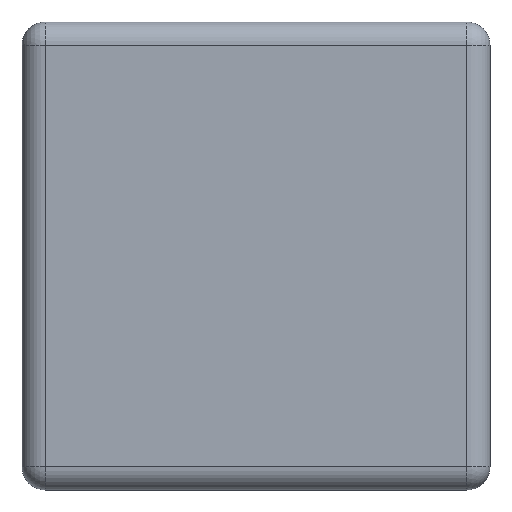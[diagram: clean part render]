
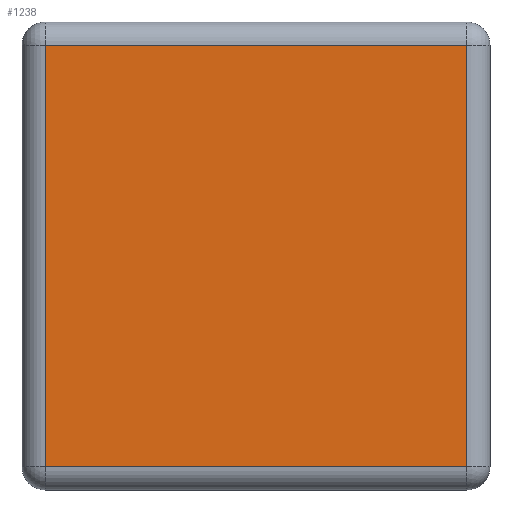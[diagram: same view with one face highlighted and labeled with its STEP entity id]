
A CAD part, front view. The second image highlights one B-rep face of the part: STEP entity #1238.
In plain terms, the highlighted planar face has unit normal (0, -1, 0).
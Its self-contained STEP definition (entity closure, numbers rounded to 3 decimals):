
#52 = EDGE_CURVE ( 'NONE', #1407, #2395, #713, .T. ) ;
#221 = ORIENTED_EDGE ( 'NONE', *, *, #1131, .T. ) ;
#389 = VECTOR ( 'NONE', #715, 1000. ) ;
#648 = VERTEX_POINT ( 'NONE', #2723 ) ;
#649 = VECTOR ( 'NONE', #1553, 1000. ) ;
#713 = LINE ( 'NONE', #1970, #649 ) ;
#715 = DIRECTION ( 'NONE',  ( 1., 0., 0. ) ) ;
#744 = EDGE_LOOP ( 'NONE', ( #3162, #932, #221, #1429 ) ) ;
#766 = AXIS2_PLACEMENT_3D ( 'NONE', #1159, #4047, #3742 ) ;
#932 = ORIENTED_EDGE ( 'NONE', *, *, #3946, .T. ) ;
#1016 = LINE ( 'NONE', #1972, #389 ) ;
#1131 = EDGE_CURVE ( 'NONE', #3427, #648, #2555, .T. ) ;
#1159 = CARTESIAN_POINT ( 'NONE',  ( 2., 0., -2. ) ) ;
#1238 = ADVANCED_FACE ( 'NONE', ( #3702 ), #3958, .T. ) ;
#1407 = VERTEX_POINT ( 'NONE', #1716 ) ;
#1429 = ORIENTED_EDGE ( 'NONE', *, *, #1628, .T. ) ;
#1553 = DIRECTION ( 'NONE',  ( 0., 0., 1. ) ) ;
#1628 = EDGE_CURVE ( 'NONE', #648, #1407, #1016, .T. ) ;
#1716 = CARTESIAN_POINT ( 'NONE',  ( 38., 0., -38. ) ) ;
#1919 = CARTESIAN_POINT ( 'NONE',  ( 2., 0., -2. ) ) ;
#1927 = CARTESIAN_POINT ( 'NONE',  ( 2., 0., -2. ) ) ;
#1970 = CARTESIAN_POINT ( 'NONE',  ( 38., 0., -2. ) ) ;
#1972 = CARTESIAN_POINT ( 'NONE',  ( 38., 0., -38. ) ) ;
#2280 = VECTOR ( 'NONE', #3688, 1000. ) ;
#2395 = VERTEX_POINT ( 'NONE', #3995 ) ;
#2463 = CARTESIAN_POINT ( 'NONE',  ( 2., 0., -38. ) ) ;
#2555 = LINE ( 'NONE', #2463, #3964 ) ;
#2723 = CARTESIAN_POINT ( 'NONE',  ( 2., 0., -38. ) ) ;
#2851 = LINE ( 'NONE', #1927, #2280 ) ;
#3162 = ORIENTED_EDGE ( 'NONE', *, *, #52, .T. ) ;
#3427 = VERTEX_POINT ( 'NONE', #1919 ) ;
#3472 = DIRECTION ( 'NONE',  ( 0., 0., -1. ) ) ;
#3688 = DIRECTION ( 'NONE',  ( -1., 0., 0. ) ) ;
#3702 = FACE_OUTER_BOUND ( 'NONE', #744, .T. ) ;
#3742 = DIRECTION ( 'NONE',  ( 0., 0., -1. ) ) ;
#3946 = EDGE_CURVE ( 'NONE', #2395, #3427, #2851, .T. ) ;
#3958 = PLANE ( 'NONE',  #766 ) ;
#3964 = VECTOR ( 'NONE', #3472, 1000. ) ;
#3995 = CARTESIAN_POINT ( 'NONE',  ( 38., 0., -2. ) ) ;
#4047 = DIRECTION ( 'NONE',  ( 0., -1., 0. ) ) ;
